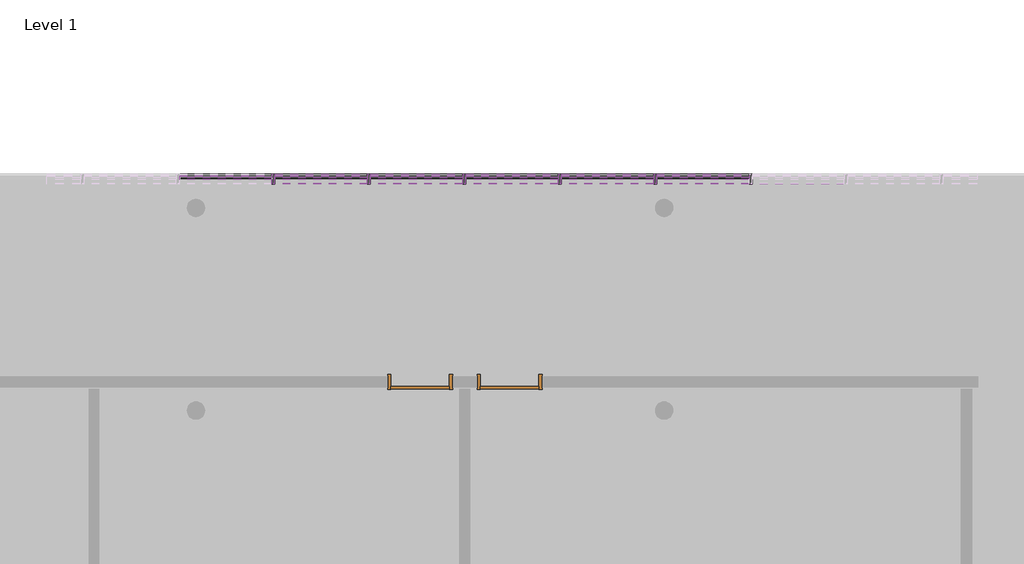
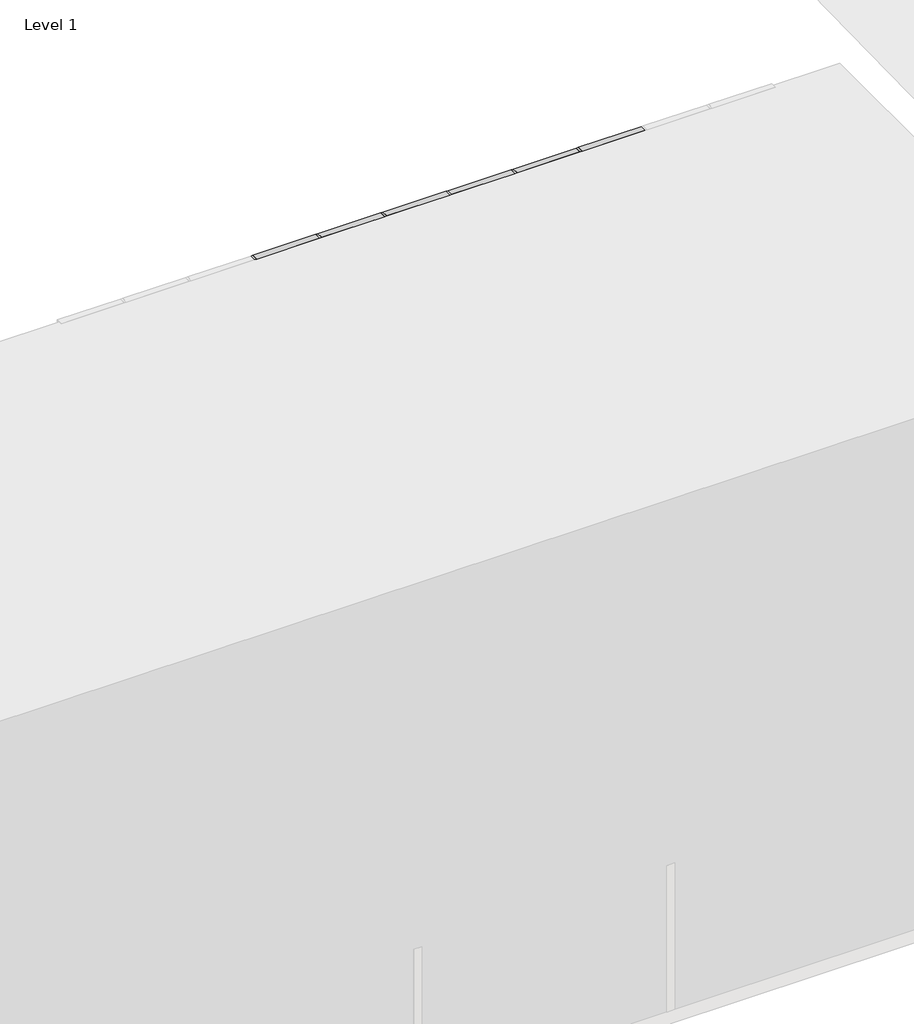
# One storey, part 8 of 18: 88 members, 40 plates, 2 doors.
"""IFC4 building model written with IfcOpenShell, lengths in millimetres."""

from ifc_helpers import new_model, si_unit, origin, place, context, project, spatial, transform, mapped, element, save
from components import door_0915mm_x_2134mm_2aa27b83, door_0915mm_x_2134mm_3fa07aa3, rectangular_mullion_50mm_x_150mm_5f185edf, rectangular_mullion_50mm_x_150mm_e13fe9f0, rectangular_mullion_50mm_x_150mm_bbc1c4ea, rectangular_mullion_50mm_x_150mm_36202a7c, rectangular_mullion_50mm_x_150mm_84717ec5, system_panel_glazed_65478968, system_panel_glazed_4c130a31, system_panel_solid_368a6b70, system_panel_solid_ece33ae8

model = new_model("IFC4")

# Units and contexts
model_context = context("Model", 3, world=origin())
ifc_project = project(units=[si_unit("LENGTHUNIT", "METRE", prefix="MILLI")], contexts=[model_context])

# Site, building, storey
site = spatial("IfcSite", under=ifc_project)
building = spatial("IfcBuilding", under=site)
storey = spatial("IfcBuildingStorey", under=building, Name="Level 1", Elevation=0.0)

# Doors
placement = place(None, origin())
door_0915mm_x_2134mm_shape = door_0915mm_x_2134mm_2aa27b83(model_context)
element("IfcDoor", 1, ObjectType="m-doors-hm-f1-a : 0915mm x 2134mm", at=placement, inside=storey, context=model_context, shape_type="MappedRepresentation", body=[
    mapped(door_0915mm_x_2134mm_shape, transform((45561.1968037, -15479.7006057, 0.0), x_axis=(-1.0, 0.0, 0.0), y_axis=(0.0, -1.0, 0.0), z_axis=(0.0, 0.0, 1.0))),
])
door_0915mm_x_2134mm_2_shape = door_0915mm_x_2134mm_3fa07aa3(model_context)
element("IfcDoor", 2, ObjectType="m-doors-hm-f1-a : 0915mm x 2134mm", at=placement, inside=storey, context=model_context, shape_type="MappedRepresentation", body=[
    mapped(door_0915mm_x_2134mm_2_shape, transform((46961.1968037, -15479.7006057, 0.0), x_axis=(1.0, 0.0, 0.0), y_axis=(0.0, 1.0, 0.0), z_axis=(0.0, 0.0, 1.0))),
])

# Members
rectangular_mullion_50mm_x_150mm_shape = rectangular_mullion_50mm_x_150mm_5f185edf(model_context)
element("IfcMember", 3, ObjectType="Rectangular Mullion : 50mm x 150mm", at=placement, inside=storey, context=model_context, shape_type="MappedRepresentation", body=[
    mapped(rectangular_mullion_50mm_x_150mm_shape, transform((50754.2244573, -12132.3615692, 12400.0), x_axis=(0.0, 0.0, 1.0), y_axis=(0.0, 1.0, 0.0), z_axis=(-1.0, 0.0, 0.0))),
])
element("IfcMember", 4, ObjectType="Rectangular Mullion : 50mm x 150mm", at=placement, inside=storey, context=model_context, shape_type="MappedRepresentation", body=[
    mapped(rectangular_mullion_50mm_x_150mm_shape, transform((49261.7512371, -12132.3615692, 12400.0), x_axis=(0.0, 0.0, 1.0), y_axis=(0.0, 1.0, 0.0), z_axis=(-1.0, 0.0, 0.0))),
])
element("IfcMember", 5, ObjectType="Rectangular Mullion : 50mm x 150mm", at=placement, inside=storey, context=model_context, shape_type="MappedRepresentation", body=[
    mapped(rectangular_mullion_50mm_x_150mm_shape, transform((47769.2780169, -12132.3615692, 12400.0), x_axis=(0.0, 0.0, 1.0), y_axis=(0.0, 1.0, 0.0), z_axis=(-1.0, 0.0, 0.0))),
])
element("IfcMember", 6, ObjectType="Rectangular Mullion : 50mm x 150mm", at=placement, inside=storey, context=model_context, shape_type="MappedRepresentation", body=[
    mapped(rectangular_mullion_50mm_x_150mm_shape, transform((46276.8047968, -12132.3615692, 12400.0), x_axis=(0.0, 0.0, 1.0), y_axis=(0.0, 1.0, 0.0), z_axis=(-1.0, 0.0, 0.0))),
])
element("IfcMember", 7, ObjectType="Rectangular Mullion : 50mm x 150mm", at=placement, inside=storey, context=model_context, shape_type="MappedRepresentation", body=[
    mapped(rectangular_mullion_50mm_x_150mm_shape, transform((44784.3315766, -12132.3615692, 12400.0), x_axis=(0.0, 0.0, 1.0), y_axis=(0.0, 1.0, 0.0), z_axis=(-1.0, 0.0, 0.0))),
])
element("IfcMember", 8, ObjectType="Rectangular Mullion : 50mm x 150mm", at=placement, inside=storey, context=model_context, shape_type="MappedRepresentation", body=[
    mapped(rectangular_mullion_50mm_x_150mm_shape, transform((43291.8583565, -12132.3615692, 12400.0), x_axis=(0.0, 0.0, 1.0), y_axis=(0.0, 1.0, 0.0), z_axis=(-1.0, 0.0, 0.0))),
])
element("IfcMember", 9, ObjectType="Rectangular Mullion : 50mm x 150mm", at=placement, inside=storey, context=model_context, shape_type="MappedRepresentation", body=[
    mapped(rectangular_mullion_50mm_x_150mm_shape, transform((50704.2244573, -12132.3615692, 0.0), x_axis=(0.0, 0.0, -1.0), y_axis=(0.0, 1.0, 0.0), z_axis=(1.0, 0.0, 0.0))),
])
element("IfcMember", 10, ObjectType="Rectangular Mullion : 50mm x 150mm", at=placement, inside=storey, context=model_context, shape_type="MappedRepresentation", body=[
    mapped(rectangular_mullion_50mm_x_150mm_shape, transform((49211.7512371, -12132.3615692, 0.0), x_axis=(0.0, 0.0, -1.0), y_axis=(0.0, 1.0, 0.0), z_axis=(1.0, 0.0, 0.0))),
])
element("IfcMember", 11, ObjectType="Rectangular Mullion : 50mm x 150mm", at=placement, inside=storey, context=model_context, shape_type="MappedRepresentation", body=[
    mapped(rectangular_mullion_50mm_x_150mm_shape, transform((47719.2780169, -12132.3615692, 0.0), x_axis=(0.0, 0.0, -1.0), y_axis=(0.0, 1.0, 0.0), z_axis=(1.0, 0.0, 0.0))),
])
element("IfcMember", 12, ObjectType="Rectangular Mullion : 50mm x 150mm", at=placement, inside=storey, context=model_context, shape_type="MappedRepresentation", body=[
    mapped(rectangular_mullion_50mm_x_150mm_shape, transform((46226.8047968, -12132.3615692, 0.0), x_axis=(0.0, 0.0, -1.0), y_axis=(0.0, 1.0, 0.0), z_axis=(1.0, 0.0, 0.0))),
])
element("IfcMember", 13, ObjectType="Rectangular Mullion : 50mm x 150mm", at=placement, inside=storey, context=model_context, shape_type="MappedRepresentation", body=[
    mapped(rectangular_mullion_50mm_x_150mm_shape, transform((44734.3315766, -12132.3615692, 0.0), x_axis=(0.0, 0.0, -1.0), y_axis=(0.0, 1.0, 0.0), z_axis=(1.0, 0.0, 0.0))),
])
element("IfcMember", 14, ObjectType="Rectangular Mullion : 50mm x 150mm", at=placement, inside=storey, context=model_context, shape_type="MappedRepresentation", body=[
    mapped(rectangular_mullion_50mm_x_150mm_shape, transform((43241.8583565, -12132.3615692, 0.0), x_axis=(0.0, 0.0, -1.0), y_axis=(0.0, 1.0, 0.0), z_axis=(1.0, 0.0, 0.0))),
])
rectangular_mullion_50mm_x_150mm_2_shape = rectangular_mullion_50mm_x_150mm_e13fe9f0(model_context)
element("IfcMember", 15, ObjectType="Rectangular Mullion : 50mm x 150mm", at=placement, inside=storey, context=model_context, shape_type="MappedRepresentation", body=[
    mapped(rectangular_mullion_50mm_x_150mm_2_shape, transform((50754.2244573, -12132.3615692, 3800.0), x_axis=(0.0, 0.0, 1.0), y_axis=(0.0, 1.0, 0.0), z_axis=(-1.0, 0.0, 0.0))),
])
element("IfcMember", 16, ObjectType="Rectangular Mullion : 50mm x 150mm", at=placement, inside=storey, context=model_context, shape_type="MappedRepresentation", body=[
    mapped(rectangular_mullion_50mm_x_150mm_2_shape, transform((49261.7512371, -12132.3615692, 3800.0), x_axis=(0.0, 0.0, 1.0), y_axis=(0.0, 1.0, 0.0), z_axis=(-1.0, 0.0, 0.0))),
])
element("IfcMember", 17, ObjectType="Rectangular Mullion : 50mm x 150mm", at=placement, inside=storey, context=model_context, shape_type="MappedRepresentation", body=[
    mapped(rectangular_mullion_50mm_x_150mm_2_shape, transform((47769.2780169, -12132.3615692, 3800.0), x_axis=(0.0, 0.0, 1.0), y_axis=(0.0, 1.0, 0.0), z_axis=(-1.0, 0.0, 0.0))),
])
element("IfcMember", 18, ObjectType="Rectangular Mullion : 50mm x 150mm", at=placement, inside=storey, context=model_context, shape_type="MappedRepresentation", body=[
    mapped(rectangular_mullion_50mm_x_150mm_2_shape, transform((46276.8047968, -12132.3615692, 3800.0), x_axis=(0.0, 0.0, 1.0), y_axis=(0.0, 1.0, 0.0), z_axis=(-1.0, 0.0, 0.0))),
])
element("IfcMember", 19, ObjectType="Rectangular Mullion : 50mm x 150mm", at=placement, inside=storey, context=model_context, shape_type="MappedRepresentation", body=[
    mapped(rectangular_mullion_50mm_x_150mm_2_shape, transform((44784.3315766, -12132.3615692, 3800.0), x_axis=(0.0, 0.0, 1.0), y_axis=(0.0, 1.0, 0.0), z_axis=(-1.0, 0.0, 0.0))),
])
element("IfcMember", 20, ObjectType="Rectangular Mullion : 50mm x 150mm", at=placement, inside=storey, context=model_context, shape_type="MappedRepresentation", body=[
    mapped(rectangular_mullion_50mm_x_150mm_2_shape, transform((43291.8583565, -12132.3615692, 3800.0), x_axis=(0.0, 0.0, 1.0), y_axis=(0.0, 1.0, 0.0), z_axis=(-1.0, 0.0, 0.0))),
])
element("IfcMember", 21, ObjectType="Rectangular Mullion : 50mm x 150mm", at=placement, inside=storey, context=model_context, shape_type="MappedRepresentation", body=[
    mapped(rectangular_mullion_50mm_x_150mm_2_shape, transform((50754.2244573, -12132.3615692, 7600.0), x_axis=(0.0, 0.0, 1.0), y_axis=(0.0, 1.0, 0.0), z_axis=(-1.0, 0.0, 0.0))),
])
element("IfcMember", 22, ObjectType="Rectangular Mullion : 50mm x 150mm", at=placement, inside=storey, context=model_context, shape_type="MappedRepresentation", body=[
    mapped(rectangular_mullion_50mm_x_150mm_2_shape, transform((49261.7512371, -12132.3615692, 7600.0), x_axis=(0.0, 0.0, 1.0), y_axis=(0.0, 1.0, 0.0), z_axis=(-1.0, 0.0, 0.0))),
])
element("IfcMember", 23, ObjectType="Rectangular Mullion : 50mm x 150mm", at=placement, inside=storey, context=model_context, shape_type="MappedRepresentation", body=[
    mapped(rectangular_mullion_50mm_x_150mm_2_shape, transform((47769.2780169, -12132.3615692, 7600.0), x_axis=(0.0, 0.0, 1.0), y_axis=(0.0, 1.0, 0.0), z_axis=(-1.0, 0.0, 0.0))),
])
element("IfcMember", 24, ObjectType="Rectangular Mullion : 50mm x 150mm", at=placement, inside=storey, context=model_context, shape_type="MappedRepresentation", body=[
    mapped(rectangular_mullion_50mm_x_150mm_2_shape, transform((46276.8047968, -12132.3615692, 7600.0), x_axis=(0.0, 0.0, 1.0), y_axis=(0.0, 1.0, 0.0), z_axis=(-1.0, 0.0, 0.0))),
])
element("IfcMember", 25, ObjectType="Rectangular Mullion : 50mm x 150mm", at=placement, inside=storey, context=model_context, shape_type="MappedRepresentation", body=[
    mapped(rectangular_mullion_50mm_x_150mm_2_shape, transform((44784.3315766, -12132.3615692, 7600.0), x_axis=(0.0, 0.0, 1.0), y_axis=(0.0, 1.0, 0.0), z_axis=(-1.0, 0.0, 0.0))),
])
element("IfcMember", 26, ObjectType="Rectangular Mullion : 50mm x 150mm", at=placement, inside=storey, context=model_context, shape_type="MappedRepresentation", body=[
    mapped(rectangular_mullion_50mm_x_150mm_2_shape, transform((43291.8583565, -12132.3615692, 7600.0), x_axis=(0.0, 0.0, 1.0), y_axis=(0.0, 1.0, 0.0), z_axis=(-1.0, 0.0, 0.0))),
])
element("IfcMember", 27, ObjectType="Rectangular Mullion : 50mm x 150mm", at=placement, inside=storey, context=model_context, shape_type="MappedRepresentation", body=[
    mapped(rectangular_mullion_50mm_x_150mm_2_shape, transform((50754.2244573, -12132.3615692, 11400.0), x_axis=(0.0, 0.0, 1.0), y_axis=(0.0, 1.0, 0.0), z_axis=(-1.0, 0.0, 0.0))),
])
element("IfcMember", 28, ObjectType="Rectangular Mullion : 50mm x 150mm", at=placement, inside=storey, context=model_context, shape_type="MappedRepresentation", body=[
    mapped(rectangular_mullion_50mm_x_150mm_2_shape, transform((49261.7512371, -12132.3615692, 11400.0), x_axis=(0.0, 0.0, 1.0), y_axis=(0.0, 1.0, 0.0), z_axis=(-1.0, 0.0, 0.0))),
])
element("IfcMember", 29, ObjectType="Rectangular Mullion : 50mm x 150mm", at=placement, inside=storey, context=model_context, shape_type="MappedRepresentation", body=[
    mapped(rectangular_mullion_50mm_x_150mm_2_shape, transform((47769.2780169, -12132.3615692, 11400.0), x_axis=(0.0, 0.0, 1.0), y_axis=(0.0, 1.0, 0.0), z_axis=(-1.0, 0.0, 0.0))),
])
element("IfcMember", 30, ObjectType="Rectangular Mullion : 50mm x 150mm", at=placement, inside=storey, context=model_context, shape_type="MappedRepresentation", body=[
    mapped(rectangular_mullion_50mm_x_150mm_2_shape, transform((46276.8047968, -12132.3615692, 11400.0), x_axis=(0.0, 0.0, 1.0), y_axis=(0.0, 1.0, 0.0), z_axis=(-1.0, 0.0, 0.0))),
])
element("IfcMember", 31, ObjectType="Rectangular Mullion : 50mm x 150mm", at=placement, inside=storey, context=model_context, shape_type="MappedRepresentation", body=[
    mapped(rectangular_mullion_50mm_x_150mm_2_shape, transform((44784.3315766, -12132.3615692, 11400.0), x_axis=(0.0, 0.0, 1.0), y_axis=(0.0, 1.0, 0.0), z_axis=(-1.0, 0.0, 0.0))),
])
element("IfcMember", 32, ObjectType="Rectangular Mullion : 50mm x 150mm", at=placement, inside=storey, context=model_context, shape_type="MappedRepresentation", body=[
    mapped(rectangular_mullion_50mm_x_150mm_2_shape, transform((43291.8583565, -12132.3615692, 11400.0), x_axis=(0.0, 0.0, 1.0), y_axis=(0.0, 1.0, 0.0), z_axis=(-1.0, 0.0, 0.0))),
])
element("IfcMember", 33, ObjectType="Rectangular Mullion : 50mm x 150mm", at=placement, inside=storey, context=model_context, shape_type="MappedRepresentation", body=[
    mapped(rectangular_mullion_50mm_x_150mm_2_shape, transform((50754.2244573, -12132.3615692, 2440.0), x_axis=(0.0, 0.0, 1.0), y_axis=(0.0, 1.0, 0.0), z_axis=(-1.0, 0.0, 0.0))),
])
element("IfcMember", 34, ObjectType="Rectangular Mullion : 50mm x 150mm", at=placement, inside=storey, context=model_context, shape_type="MappedRepresentation", body=[
    mapped(rectangular_mullion_50mm_x_150mm_2_shape, transform((49261.7512371, -12132.3615692, 2440.0), x_axis=(0.0, 0.0, 1.0), y_axis=(0.0, 1.0, 0.0), z_axis=(-1.0, 0.0, 0.0))),
])
element("IfcMember", 35, ObjectType="Rectangular Mullion : 50mm x 150mm", at=placement, inside=storey, context=model_context, shape_type="MappedRepresentation", body=[
    mapped(rectangular_mullion_50mm_x_150mm_2_shape, transform((47769.2780169, -12132.3615692, 2440.0), x_axis=(0.0, 0.0, 1.0), y_axis=(0.0, 1.0, 0.0), z_axis=(-1.0, 0.0, 0.0))),
])
element("IfcMember", 36, ObjectType="Rectangular Mullion : 50mm x 150mm", at=placement, inside=storey, context=model_context, shape_type="MappedRepresentation", body=[
    mapped(rectangular_mullion_50mm_x_150mm_2_shape, transform((46276.8047968, -12132.3615692, 2440.0), x_axis=(0.0, 0.0, 1.0), y_axis=(0.0, 1.0, 0.0), z_axis=(-1.0, 0.0, 0.0))),
])
element("IfcMember", 37, ObjectType="Rectangular Mullion : 50mm x 150mm", at=placement, inside=storey, context=model_context, shape_type="MappedRepresentation", body=[
    mapped(rectangular_mullion_50mm_x_150mm_2_shape, transform((44784.3315766, -12132.3615692, 2440.0), x_axis=(0.0, 0.0, 1.0), y_axis=(0.0, 1.0, 0.0), z_axis=(-1.0, 0.0, 0.0))),
])
element("IfcMember", 38, ObjectType="Rectangular Mullion : 50mm x 150mm", at=placement, inside=storey, context=model_context, shape_type="MappedRepresentation", body=[
    mapped(rectangular_mullion_50mm_x_150mm_2_shape, transform((43291.8583565, -12132.3615692, 2440.0), x_axis=(0.0, 0.0, 1.0), y_axis=(0.0, 1.0, 0.0), z_axis=(-1.0, 0.0, 0.0))),
])
element("IfcMember", 39, ObjectType="Rectangular Mullion : 50mm x 150mm", at=placement, inside=storey, context=model_context, shape_type="MappedRepresentation", body=[
    mapped(rectangular_mullion_50mm_x_150mm_2_shape, transform((50754.2244573, -12132.3615692, 6240.0), x_axis=(0.0, 0.0, 1.0), y_axis=(0.0, 1.0, 0.0), z_axis=(-1.0, 0.0, 0.0))),
])
element("IfcMember", 40, ObjectType="Rectangular Mullion : 50mm x 150mm", at=placement, inside=storey, context=model_context, shape_type="MappedRepresentation", body=[
    mapped(rectangular_mullion_50mm_x_150mm_2_shape, transform((49261.7512371, -12132.3615692, 6240.0), x_axis=(0.0, 0.0, 1.0), y_axis=(0.0, 1.0, 0.0), z_axis=(-1.0, 0.0, 0.0))),
])
element("IfcMember", 41, ObjectType="Rectangular Mullion : 50mm x 150mm", at=placement, inside=storey, context=model_context, shape_type="MappedRepresentation", body=[
    mapped(rectangular_mullion_50mm_x_150mm_2_shape, transform((47769.2780169, -12132.3615692, 6240.0), x_axis=(0.0, 0.0, 1.0), y_axis=(0.0, 1.0, 0.0), z_axis=(-1.0, 0.0, 0.0))),
])
element("IfcMember", 42, ObjectType="Rectangular Mullion : 50mm x 150mm", at=placement, inside=storey, context=model_context, shape_type="MappedRepresentation", body=[
    mapped(rectangular_mullion_50mm_x_150mm_2_shape, transform((46276.8047968, -12132.3615692, 6240.0), x_axis=(0.0, 0.0, 1.0), y_axis=(0.0, 1.0, 0.0), z_axis=(-1.0, 0.0, 0.0))),
])
element("IfcMember", 43, ObjectType="Rectangular Mullion : 50mm x 150mm", at=placement, inside=storey, context=model_context, shape_type="MappedRepresentation", body=[
    mapped(rectangular_mullion_50mm_x_150mm_2_shape, transform((44784.3315766, -12132.3615692, 6240.0), x_axis=(0.0, 0.0, 1.0), y_axis=(0.0, 1.0, 0.0), z_axis=(-1.0, 0.0, 0.0))),
])
element("IfcMember", 44, ObjectType="Rectangular Mullion : 50mm x 150mm", at=placement, inside=storey, context=model_context, shape_type="MappedRepresentation", body=[
    mapped(rectangular_mullion_50mm_x_150mm_2_shape, transform((43291.8583565, -12132.3615692, 6240.0), x_axis=(0.0, 0.0, 1.0), y_axis=(0.0, 1.0, 0.0), z_axis=(-1.0, 0.0, 0.0))),
])
element("IfcMember", 45, ObjectType="Rectangular Mullion : 50mm x 150mm", at=placement, inside=storey, context=model_context, shape_type="MappedRepresentation", body=[
    mapped(rectangular_mullion_50mm_x_150mm_2_shape, transform((49261.7512371, -12132.3615692, 10040.0), x_axis=(0.0, 0.0, 1.0), y_axis=(0.0, 1.0, 0.0), z_axis=(-1.0, 0.0, 0.0))),
])
element("IfcMember", 46, ObjectType="Rectangular Mullion : 50mm x 150mm", at=placement, inside=storey, context=model_context, shape_type="MappedRepresentation", body=[
    mapped(rectangular_mullion_50mm_x_150mm_2_shape, transform((47769.2780169, -12132.3615692, 10040.0), x_axis=(0.0, 0.0, 1.0), y_axis=(0.0, 1.0, 0.0), z_axis=(-1.0, 0.0, 0.0))),
])
element("IfcMember", 47, ObjectType="Rectangular Mullion : 50mm x 150mm", at=placement, inside=storey, context=model_context, shape_type="MappedRepresentation", body=[
    mapped(rectangular_mullion_50mm_x_150mm_2_shape, transform((46276.8047968, -12132.3615692, 10040.0), x_axis=(0.0, 0.0, 1.0), y_axis=(0.0, 1.0, 0.0), z_axis=(-1.0, 0.0, 0.0))),
])
element("IfcMember", 48, ObjectType="Rectangular Mullion : 50mm x 150mm", at=placement, inside=storey, context=model_context, shape_type="MappedRepresentation", body=[
    mapped(rectangular_mullion_50mm_x_150mm_2_shape, transform((44784.3315766, -12132.3615692, 10040.0), x_axis=(0.0, 0.0, 1.0), y_axis=(0.0, 1.0, 0.0), z_axis=(-1.0, 0.0, 0.0))),
])
element("IfcMember", 49, ObjectType="Rectangular Mullion : 50mm x 150mm", at=placement, inside=storey, context=model_context, shape_type="MappedRepresentation", body=[
    mapped(rectangular_mullion_50mm_x_150mm_2_shape, transform((43291.8583565, -12132.3615692, 10040.0), x_axis=(0.0, 0.0, 1.0), y_axis=(0.0, 1.0, 0.0), z_axis=(-1.0, 0.0, 0.0))),
])
rectangular_mullion_50mm_x_150mm_3_shape = rectangular_mullion_50mm_x_150mm_bbc1c4ea(model_context)
element("IfcMember", 50, ObjectType="Rectangular Mullion : 50mm x 150mm", at=placement, inside=storey, context=model_context, shape_type="MappedRepresentation", body=[
    mapped(rectangular_mullion_50mm_x_150mm_3_shape, transform((50729.2244573, -12132.3615692, 11400.0), x_axis=(-1.0, 0.0, 0.0), y_axis=(0.0, 1.0, 0.0), z_axis=(0.0, 0.0, -1.0))),
])
element("IfcMember", 51, ObjectType="Rectangular Mullion : 50mm x 150mm", at=placement, inside=storey, context=model_context, shape_type="MappedRepresentation", body=[
    mapped(rectangular_mullion_50mm_x_150mm_3_shape, transform((49236.7512371, -12132.3615692, 11400.0), x_axis=(-1.0, 0.0, 0.0), y_axis=(0.0, 1.0, 0.0), z_axis=(0.0, 0.0, -1.0))),
])
element("IfcMember", 52, ObjectType="Rectangular Mullion : 50mm x 150mm", at=placement, inside=storey, context=model_context, shape_type="MappedRepresentation", body=[
    mapped(rectangular_mullion_50mm_x_150mm_3_shape, transform((47744.2780169, -12132.3615692, 11400.0), x_axis=(-1.0, 0.0, 0.0), y_axis=(0.0, 1.0, 0.0), z_axis=(0.0, 0.0, -1.0))),
])
element("IfcMember", 53, ObjectType="Rectangular Mullion : 50mm x 150mm", at=placement, inside=storey, context=model_context, shape_type="MappedRepresentation", body=[
    mapped(rectangular_mullion_50mm_x_150mm_3_shape, transform((46251.8047968, -12132.3615692, 11400.0), x_axis=(-1.0, 0.0, 0.0), y_axis=(0.0, 1.0, 0.0), z_axis=(0.0, 0.0, -1.0))),
])
element("IfcMember", 54, ObjectType="Rectangular Mullion : 50mm x 150mm", at=placement, inside=storey, context=model_context, shape_type="MappedRepresentation", body=[
    mapped(rectangular_mullion_50mm_x_150mm_3_shape, transform((44759.3315766, -12132.3615692, 11400.0), x_axis=(-1.0, 0.0, 0.0), y_axis=(0.0, 1.0, 0.0), z_axis=(0.0, 0.0, -1.0))),
])
element("IfcMember", 55, ObjectType="Rectangular Mullion : 50mm x 150mm", at=placement, inside=storey, context=model_context, shape_type="MappedRepresentation", body=[
    mapped(rectangular_mullion_50mm_x_150mm_3_shape, transform((43266.8583565, -12132.3615692, 11400.0), x_axis=(-1.0, 0.0, 0.0), y_axis=(0.0, 1.0, 0.0), z_axis=(0.0, 0.0, -1.0))),
])
rectangular_mullion_50mm_x_150mm_4_shape = rectangular_mullion_50mm_x_150mm_36202a7c(model_context)
element("IfcMember", 56, ObjectType="Rectangular Mullion : 50mm x 150mm", at=placement, inside=storey, context=model_context, shape_type="MappedRepresentation", body=[
    mapped(rectangular_mullion_50mm_x_150mm_4_shape, transform((50729.2244573, -12132.3615692, 0.0), x_axis=(-1.0, 0.0, 0.0), y_axis=(0.0, 1.0, 0.0), z_axis=(0.0, 0.0, -1.0))),
])
element("IfcMember", 57, ObjectType="Rectangular Mullion : 50mm x 150mm", at=placement, inside=storey, context=model_context, shape_type="MappedRepresentation", body=[
    mapped(rectangular_mullion_50mm_x_150mm_4_shape, transform((49236.7512371, -12132.3615692, 0.0), x_axis=(-1.0, 0.0, 0.0), y_axis=(0.0, 1.0, 0.0), z_axis=(0.0, 0.0, -1.0))),
])
element("IfcMember", 58, ObjectType="Rectangular Mullion : 50mm x 150mm", at=placement, inside=storey, context=model_context, shape_type="MappedRepresentation", body=[
    mapped(rectangular_mullion_50mm_x_150mm_4_shape, transform((47744.2780169, -12132.3615692, 0.0), x_axis=(-1.0, 0.0, 0.0), y_axis=(0.0, 1.0, 0.0), z_axis=(0.0, 0.0, -1.0))),
])
element("IfcMember", 59, ObjectType="Rectangular Mullion : 50mm x 150mm", at=placement, inside=storey, context=model_context, shape_type="MappedRepresentation", body=[
    mapped(rectangular_mullion_50mm_x_150mm_4_shape, transform((46251.8047968, -12132.3615692, 0.0), x_axis=(-1.0, 0.0, 0.0), y_axis=(0.0, 1.0, 0.0), z_axis=(0.0, 0.0, -1.0))),
])
element("IfcMember", 60, ObjectType="Rectangular Mullion : 50mm x 150mm", at=placement, inside=storey, context=model_context, shape_type="MappedRepresentation", body=[
    mapped(rectangular_mullion_50mm_x_150mm_4_shape, transform((44759.3315766, -12132.3615692, 0.0), x_axis=(-1.0, 0.0, 0.0), y_axis=(0.0, 1.0, 0.0), z_axis=(0.0, 0.0, -1.0))),
])
element("IfcMember", 61, ObjectType="Rectangular Mullion : 50mm x 150mm", at=placement, inside=storey, context=model_context, shape_type="MappedRepresentation", body=[
    mapped(rectangular_mullion_50mm_x_150mm_4_shape, transform((43266.8583565, -12132.3615692, 0.0), x_axis=(-1.0, 0.0, 0.0), y_axis=(0.0, 1.0, 0.0), z_axis=(0.0, 0.0, -1.0))),
])
rectangular_mullion_50mm_x_150mm_5_shape = rectangular_mullion_50mm_x_150mm_84717ec5(model_context)
element("IfcMember", 62, ObjectType="Rectangular Mullion : 50mm x 150mm", at=placement, inside=storey, context=model_context, shape_type="MappedRepresentation", body=[
    mapped(rectangular_mullion_50mm_x_150mm_5_shape, transform((50729.2244573, -12132.3615692, 2440.0), x_axis=(-1.0, 0.0, 0.0), y_axis=(0.0, 1.0, 0.0), z_axis=(0.0, 0.0, -1.0))),
])
element("IfcMember", 63, ObjectType="Rectangular Mullion : 50mm x 150mm", at=placement, inside=storey, context=model_context, shape_type="MappedRepresentation", body=[
    mapped(rectangular_mullion_50mm_x_150mm_5_shape, transform((49236.7512371, -12132.3615692, 2440.0), x_axis=(-1.0, 0.0, 0.0), y_axis=(0.0, 1.0, 0.0), z_axis=(0.0, 0.0, -1.0))),
])
element("IfcMember", 64, ObjectType="Rectangular Mullion : 50mm x 150mm", at=placement, inside=storey, context=model_context, shape_type="MappedRepresentation", body=[
    mapped(rectangular_mullion_50mm_x_150mm_5_shape, transform((47744.2780169, -12132.3615692, 2440.0), x_axis=(-1.0, 0.0, 0.0), y_axis=(0.0, 1.0, 0.0), z_axis=(0.0, 0.0, -1.0))),
])
element("IfcMember", 65, ObjectType="Rectangular Mullion : 50mm x 150mm", at=placement, inside=storey, context=model_context, shape_type="MappedRepresentation", body=[
    mapped(rectangular_mullion_50mm_x_150mm_5_shape, transform((46251.8047968, -12132.3615692, 2440.0), x_axis=(-1.0, 0.0, 0.0), y_axis=(0.0, 1.0, 0.0), z_axis=(0.0, 0.0, -1.0))),
])
element("IfcMember", 66, ObjectType="Rectangular Mullion : 50mm x 150mm", at=placement, inside=storey, context=model_context, shape_type="MappedRepresentation", body=[
    mapped(rectangular_mullion_50mm_x_150mm_5_shape, transform((44759.3315766, -12132.3615692, 2440.0), x_axis=(-1.0, 0.0, 0.0), y_axis=(0.0, 1.0, 0.0), z_axis=(0.0, 0.0, -1.0))),
])
element("IfcMember", 67, ObjectType="Rectangular Mullion : 50mm x 150mm", at=placement, inside=storey, context=model_context, shape_type="MappedRepresentation", body=[
    mapped(rectangular_mullion_50mm_x_150mm_5_shape, transform((43266.8583565, -12132.3615692, 2440.0), x_axis=(-1.0, 0.0, 0.0), y_axis=(0.0, 1.0, 0.0), z_axis=(0.0, 0.0, -1.0))),
])
element("IfcMember", 68, ObjectType="Rectangular Mullion : 50mm x 150mm", at=placement, inside=storey, context=model_context, shape_type="MappedRepresentation", body=[
    mapped(rectangular_mullion_50mm_x_150mm_5_shape, transform((50729.2244573, -12132.3615692, 6240.0), x_axis=(-1.0, 0.0, 0.0), y_axis=(0.0, 1.0, 0.0), z_axis=(0.0, 0.0, -1.0))),
])
element("IfcMember", 69, ObjectType="Rectangular Mullion : 50mm x 150mm", at=placement, inside=storey, context=model_context, shape_type="MappedRepresentation", body=[
    mapped(rectangular_mullion_50mm_x_150mm_5_shape, transform((49236.7512371, -12132.3615692, 6240.0), x_axis=(-1.0, 0.0, 0.0), y_axis=(0.0, 1.0, 0.0), z_axis=(0.0, 0.0, -1.0))),
])
element("IfcMember", 70, ObjectType="Rectangular Mullion : 50mm x 150mm", at=placement, inside=storey, context=model_context, shape_type="MappedRepresentation", body=[
    mapped(rectangular_mullion_50mm_x_150mm_5_shape, transform((47744.2780169, -12132.3615692, 6240.0), x_axis=(-1.0, 0.0, 0.0), y_axis=(0.0, 1.0, 0.0), z_axis=(0.0, 0.0, -1.0))),
])
element("IfcMember", 71, ObjectType="Rectangular Mullion : 50mm x 150mm", at=placement, inside=storey, context=model_context, shape_type="MappedRepresentation", body=[
    mapped(rectangular_mullion_50mm_x_150mm_5_shape, transform((46251.8047968, -12132.3615692, 6240.0), x_axis=(-1.0, 0.0, 0.0), y_axis=(0.0, 1.0, 0.0), z_axis=(0.0, 0.0, -1.0))),
])
element("IfcMember", 72, ObjectType="Rectangular Mullion : 50mm x 150mm", at=placement, inside=storey, context=model_context, shape_type="MappedRepresentation", body=[
    mapped(rectangular_mullion_50mm_x_150mm_5_shape, transform((44759.3315766, -12132.3615692, 6240.0), x_axis=(-1.0, 0.0, 0.0), y_axis=(0.0, 1.0, 0.0), z_axis=(0.0, 0.0, -1.0))),
])
element("IfcMember", 73, ObjectType="Rectangular Mullion : 50mm x 150mm", at=placement, inside=storey, context=model_context, shape_type="MappedRepresentation", body=[
    mapped(rectangular_mullion_50mm_x_150mm_5_shape, transform((43266.8583565, -12132.3615692, 6240.0), x_axis=(-1.0, 0.0, 0.0), y_axis=(0.0, 1.0, 0.0), z_axis=(0.0, 0.0, -1.0))),
])
element("IfcMember", 74, ObjectType="Rectangular Mullion : 50mm x 150mm", at=placement, inside=storey, context=model_context, shape_type="MappedRepresentation", body=[
    mapped(rectangular_mullion_50mm_x_150mm_5_shape, transform((49236.7512371, -12132.3615692, 10040.0), x_axis=(-1.0, 0.0, 0.0), y_axis=(0.0, 1.0, 0.0), z_axis=(0.0, 0.0, -1.0))),
])
element("IfcMember", 75, ObjectType="Rectangular Mullion : 50mm x 150mm", at=placement, inside=storey, context=model_context, shape_type="MappedRepresentation", body=[
    mapped(rectangular_mullion_50mm_x_150mm_5_shape, transform((47744.2780169, -12132.3615692, 10040.0), x_axis=(-1.0, 0.0, 0.0), y_axis=(0.0, 1.0, 0.0), z_axis=(0.0, 0.0, -1.0))),
])
element("IfcMember", 76, ObjectType="Rectangular Mullion : 50mm x 150mm", at=placement, inside=storey, context=model_context, shape_type="MappedRepresentation", body=[
    mapped(rectangular_mullion_50mm_x_150mm_5_shape, transform((46251.8047968, -12132.3615692, 10040.0), x_axis=(-1.0, 0.0, 0.0), y_axis=(0.0, 1.0, 0.0), z_axis=(0.0, 0.0, -1.0))),
])
element("IfcMember", 77, ObjectType="Rectangular Mullion : 50mm x 150mm", at=placement, inside=storey, context=model_context, shape_type="MappedRepresentation", body=[
    mapped(rectangular_mullion_50mm_x_150mm_5_shape, transform((44759.3315766, -12132.3615692, 10040.0), x_axis=(-1.0, 0.0, 0.0), y_axis=(0.0, 1.0, 0.0), z_axis=(0.0, 0.0, -1.0))),
])
element("IfcMember", 78, ObjectType="Rectangular Mullion : 50mm x 150mm", at=placement, inside=storey, context=model_context, shape_type="MappedRepresentation", body=[
    mapped(rectangular_mullion_50mm_x_150mm_5_shape, transform((43266.8583565, -12132.3615692, 10040.0), x_axis=(-1.0, 0.0, 0.0), y_axis=(0.0, 1.0, 0.0), z_axis=(0.0, 0.0, -1.0))),
])
element("IfcMember", 79, ObjectType="Rectangular Mullion : 50mm x 150mm", at=placement, inside=storey, context=model_context, shape_type="MappedRepresentation", body=[
    mapped(rectangular_mullion_50mm_x_150mm_4_shape, transform((50729.2244573, -12132.3615692, 3800.0), x_axis=(-1.0, 0.0, 0.0), y_axis=(0.0, 1.0, 0.0), z_axis=(0.0, 0.0, -1.0))),
])
element("IfcMember", 80, ObjectType="Rectangular Mullion : 50mm x 150mm", at=placement, inside=storey, context=model_context, shape_type="MappedRepresentation", body=[
    mapped(rectangular_mullion_50mm_x_150mm_4_shape, transform((49236.7512371, -12132.3615692, 3800.0), x_axis=(-1.0, 0.0, 0.0), y_axis=(0.0, 1.0, 0.0), z_axis=(0.0, 0.0, -1.0))),
])
element("IfcMember", 81, ObjectType="Rectangular Mullion : 50mm x 150mm", at=placement, inside=storey, context=model_context, shape_type="MappedRepresentation", body=[
    mapped(rectangular_mullion_50mm_x_150mm_4_shape, transform((47744.2780169, -12132.3615692, 3800.0), x_axis=(-1.0, 0.0, 0.0), y_axis=(0.0, 1.0, 0.0), z_axis=(0.0, 0.0, -1.0))),
])
element("IfcMember", 82, ObjectType="Rectangular Mullion : 50mm x 150mm", at=placement, inside=storey, context=model_context, shape_type="MappedRepresentation", body=[
    mapped(rectangular_mullion_50mm_x_150mm_4_shape, transform((46251.8047968, -12132.3615692, 3800.0), x_axis=(-1.0, 0.0, 0.0), y_axis=(0.0, 1.0, 0.0), z_axis=(0.0, 0.0, -1.0))),
])
element("IfcMember", 83, ObjectType="Rectangular Mullion : 50mm x 150mm", at=placement, inside=storey, context=model_context, shape_type="MappedRepresentation", body=[
    mapped(rectangular_mullion_50mm_x_150mm_4_shape, transform((44759.3315766, -12132.3615692, 3800.0), x_axis=(-1.0, 0.0, 0.0), y_axis=(0.0, 1.0, 0.0), z_axis=(0.0, 0.0, -1.0))),
])
element("IfcMember", 84, ObjectType="Rectangular Mullion : 50mm x 150mm", at=placement, inside=storey, context=model_context, shape_type="MappedRepresentation", body=[
    mapped(rectangular_mullion_50mm_x_150mm_4_shape, transform((43266.8583565, -12132.3615692, 3800.0), x_axis=(-1.0, 0.0, 0.0), y_axis=(0.0, 1.0, 0.0), z_axis=(0.0, 0.0, -1.0))),
])
element("IfcMember", 85, ObjectType="Rectangular Mullion : 50mm x 150mm", at=placement, inside=storey, context=model_context, shape_type="MappedRepresentation", body=[
    mapped(rectangular_mullion_50mm_x_150mm_4_shape, transform((50729.2244573, -12132.3615692, 7600.0), x_axis=(-1.0, 0.0, 0.0), y_axis=(0.0, 1.0, 0.0), z_axis=(0.0, 0.0, -1.0))),
])
element("IfcMember", 86, ObjectType="Rectangular Mullion : 50mm x 150mm", at=placement, inside=storey, context=model_context, shape_type="MappedRepresentation", body=[
    mapped(rectangular_mullion_50mm_x_150mm_4_shape, transform((49236.7512371, -12132.3615692, 7600.0), x_axis=(-1.0, 0.0, 0.0), y_axis=(0.0, 1.0, 0.0), z_axis=(0.0, 0.0, -1.0))),
])
element("IfcMember", 87, ObjectType="Rectangular Mullion : 50mm x 150mm", at=placement, inside=storey, context=model_context, shape_type="MappedRepresentation", body=[
    mapped(rectangular_mullion_50mm_x_150mm_4_shape, transform((47744.2780169, -12132.3615692, 7600.0), x_axis=(-1.0, 0.0, 0.0), y_axis=(0.0, 1.0, 0.0), z_axis=(0.0, 0.0, -1.0))),
])
element("IfcMember", 88, ObjectType="Rectangular Mullion : 50mm x 150mm", at=placement, inside=storey, context=model_context, shape_type="MappedRepresentation", body=[
    mapped(rectangular_mullion_50mm_x_150mm_4_shape, transform((46251.8047968, -12132.3615692, 7600.0), x_axis=(-1.0, 0.0, 0.0), y_axis=(0.0, 1.0, 0.0), z_axis=(0.0, 0.0, -1.0))),
])
element("IfcMember", 89, ObjectType="Rectangular Mullion : 50mm x 150mm", at=placement, inside=storey, context=model_context, shape_type="MappedRepresentation", body=[
    mapped(rectangular_mullion_50mm_x_150mm_4_shape, transform((44759.3315766, -12132.3615692, 7600.0), x_axis=(-1.0, 0.0, 0.0), y_axis=(0.0, 1.0, 0.0), z_axis=(0.0, 0.0, -1.0))),
])
element("IfcMember", 90, ObjectType="Rectangular Mullion : 50mm x 150mm", at=placement, inside=storey, context=model_context, shape_type="MappedRepresentation", body=[
    mapped(rectangular_mullion_50mm_x_150mm_4_shape, transform((43266.8583565, -12132.3615692, 7600.0), x_axis=(-1.0, 0.0, 0.0), y_axis=(0.0, 1.0, 0.0), z_axis=(0.0, 0.0, -1.0))),
])

# Plates
system_panel_glazed_shape = system_panel_glazed_65478968(model_context)
element("IfcPlate", 91, ObjectType="System Panel : Glazed", at=placement, inside=storey, context=model_context, shape_type="MappedRepresentation", body=[
    mapped(system_panel_glazed_shape, transform((49982.9878472, -12132.3615692, 50.0), x_axis=(-1.0, 0.0, 0.0), y_axis=(0.0, -1.0, 0.0), z_axis=(0.0, 0.0, 1.0))),
])
element("IfcPlate", 92, ObjectType="System Panel : Glazed", at=placement, inside=storey, context=model_context, shape_type="MappedRepresentation", body=[
    mapped(system_panel_glazed_shape, transform((48490.514627, -12132.3615692, 50.0), x_axis=(-1.0, 0.0, 0.0), y_axis=(0.0, -1.0, 0.0), z_axis=(0.0, 0.0, 1.0))),
])
element("IfcPlate", 93, ObjectType="System Panel : Glazed", at=placement, inside=storey, context=model_context, shape_type="MappedRepresentation", body=[
    mapped(system_panel_glazed_shape, transform((46998.0414069, -12132.3615692, 50.0), x_axis=(-1.0, 0.0, 0.0), y_axis=(0.0, -1.0, 0.0), z_axis=(0.0, 0.0, 1.0))),
])
element("IfcPlate", 94, ObjectType="System Panel : Glazed", at=placement, inside=storey, context=model_context, shape_type="MappedRepresentation", body=[
    mapped(system_panel_glazed_shape, transform((45505.5681867, -12132.3615692, 50.0), x_axis=(-1.0, 0.0, 0.0), y_axis=(0.0, -1.0, 0.0), z_axis=(0.0, 0.0, 1.0))),
])
element("IfcPlate", 95, ObjectType="System Panel : Glazed", at=placement, inside=storey, context=model_context, shape_type="MappedRepresentation", body=[
    mapped(system_panel_glazed_shape, transform((44013.0949665, -12132.3615692, 50.0), x_axis=(-1.0, 0.0, 0.0), y_axis=(0.0, -1.0, 0.0), z_axis=(0.0, 0.0, 1.0))),
])
system_panel_glazed_2_shape = system_panel_glazed_4c130a31(model_context)
element("IfcPlate", 96, ObjectType="System Panel : Glazed", at=placement, inside=storey, context=model_context, shape_type="MappedRepresentation", body=[
    mapped(system_panel_glazed_2_shape, transform((49982.9878472, -12132.3615692, 3825.0), x_axis=(-1.0, 0.0, 0.0), y_axis=(0.0, -1.0, 0.0), z_axis=(0.0, 0.0, 1.0))),
])
element("IfcPlate", 97, ObjectType="System Panel : Glazed", at=placement, inside=storey, context=model_context, shape_type="MappedRepresentation", body=[
    mapped(system_panel_glazed_2_shape, transform((48490.514627, -12132.3615692, 3825.0), x_axis=(-1.0, 0.0, 0.0), y_axis=(0.0, -1.0, 0.0), z_axis=(0.0, 0.0, 1.0))),
])
element("IfcPlate", 98, ObjectType="System Panel : Glazed", at=placement, inside=storey, context=model_context, shape_type="MappedRepresentation", body=[
    mapped(system_panel_glazed_2_shape, transform((46998.0414069, -12132.3615692, 3825.0), x_axis=(-1.0, 0.0, 0.0), y_axis=(0.0, -1.0, 0.0), z_axis=(0.0, 0.0, 1.0))),
])
element("IfcPlate", 99, ObjectType="System Panel : Glazed", at=placement, inside=storey, context=model_context, shape_type="MappedRepresentation", body=[
    mapped(system_panel_glazed_2_shape, transform((45505.5681867, -12132.3615692, 3825.0), x_axis=(-1.0, 0.0, 0.0), y_axis=(0.0, -1.0, 0.0), z_axis=(0.0, 0.0, 1.0))),
])
element("IfcPlate", 100, ObjectType="System Panel : Glazed", at=placement, inside=storey, context=model_context, shape_type="MappedRepresentation", body=[
    mapped(system_panel_glazed_2_shape, transform((44013.0949665, -12132.3615692, 3825.0), x_axis=(-1.0, 0.0, 0.0), y_axis=(0.0, -1.0, 0.0), z_axis=(0.0, 0.0, 1.0))),
])
element("IfcPlate", 101, ObjectType="System Panel : Glazed", at=placement, inside=storey, context=model_context, shape_type="MappedRepresentation", body=[
    mapped(system_panel_glazed_2_shape, transform((49982.9878472, -12132.3615692, 7625.0), x_axis=(-1.0, 0.0, 0.0), y_axis=(0.0, -1.0, 0.0), z_axis=(0.0, 0.0, 1.0))),
])
element("IfcPlate", 102, ObjectType="System Panel : Glazed", at=placement, inside=storey, context=model_context, shape_type="MappedRepresentation", body=[
    mapped(system_panel_glazed_2_shape, transform((48490.514627, -12132.3615692, 7625.0), x_axis=(-1.0, 0.0, 0.0), y_axis=(0.0, -1.0, 0.0), z_axis=(0.0, 0.0, 1.0))),
])
element("IfcPlate", 103, ObjectType="System Panel : Glazed", at=placement, inside=storey, context=model_context, shape_type="MappedRepresentation", body=[
    mapped(system_panel_glazed_2_shape, transform((46998.0414069, -12132.3615692, 7625.0), x_axis=(-1.0, 0.0, 0.0), y_axis=(0.0, -1.0, 0.0), z_axis=(0.0, 0.0, 1.0))),
])
element("IfcPlate", 104, ObjectType="System Panel : Glazed", at=placement, inside=storey, context=model_context, shape_type="MappedRepresentation", body=[
    mapped(system_panel_glazed_2_shape, transform((45505.5681867, -12132.3615692, 7625.0), x_axis=(-1.0, 0.0, 0.0), y_axis=(0.0, -1.0, 0.0), z_axis=(0.0, 0.0, 1.0))),
])
element("IfcPlate", 105, ObjectType="System Panel : Glazed", at=placement, inside=storey, context=model_context, shape_type="MappedRepresentation", body=[
    mapped(system_panel_glazed_2_shape, transform((44013.0949665, -12132.3615692, 7625.0), x_axis=(-1.0, 0.0, 0.0), y_axis=(0.0, -1.0, 0.0), z_axis=(0.0, 0.0, 1.0))),
])
element("IfcPlate", 106, ObjectType="System Panel : Glazed", at=placement, inside=storey, context=model_context, shape_type="MappedRepresentation", body=[
    mapped(system_panel_glazed_2_shape, transform((42520.6217464, -12132.3615692, 7625.0), x_axis=(-1.0, 0.0, 0.0), y_axis=(0.0, -1.0, 0.0), z_axis=(0.0, 0.0, 1.0))),
])
system_panel_solid_shape = system_panel_solid_368a6b70(model_context)
element("IfcPlate", 107, ObjectType="System Panel : Solid", at=placement, inside=storey, context=model_context, shape_type="MappedRepresentation", body=[
    mapped(system_panel_solid_shape, transform((49982.9878472, -12132.3615692, 11425.0), x_axis=(-1.0, 0.0, 0.0), y_axis=(0.0, -1.0, 0.0), z_axis=(0.0, 0.0, 1.0))),
])
element("IfcPlate", 108, ObjectType="System Panel : Solid", at=placement, inside=storey, context=model_context, shape_type="MappedRepresentation", body=[
    mapped(system_panel_solid_shape, transform((48490.514627, -12132.3615692, 11425.0), x_axis=(-1.0, 0.0, 0.0), y_axis=(0.0, -1.0, 0.0), z_axis=(0.0, 0.0, 1.0))),
])
element("IfcPlate", 109, ObjectType="System Panel : Solid", at=placement, inside=storey, context=model_context, shape_type="MappedRepresentation", body=[
    mapped(system_panel_solid_shape, transform((46998.0414069, -12132.3615692, 11425.0), x_axis=(-1.0, 0.0, 0.0), y_axis=(0.0, -1.0, 0.0), z_axis=(0.0, 0.0, 1.0))),
])
element("IfcPlate", 110, ObjectType="System Panel : Solid", at=placement, inside=storey, context=model_context, shape_type="MappedRepresentation", body=[
    mapped(system_panel_solid_shape, transform((45505.5681867, -12132.3615692, 11425.0), x_axis=(-1.0, 0.0, 0.0), y_axis=(0.0, -1.0, 0.0), z_axis=(0.0, 0.0, 1.0))),
])
element("IfcPlate", 111, ObjectType="System Panel : Solid", at=placement, inside=storey, context=model_context, shape_type="MappedRepresentation", body=[
    mapped(system_panel_solid_shape, transform((44013.0949665, -12132.3615692, 11425.0), x_axis=(-1.0, 0.0, 0.0), y_axis=(0.0, -1.0, 0.0), z_axis=(0.0, 0.0, 1.0))),
])
element("IfcPlate", 112, ObjectType="System Panel : Solid", at=placement, inside=storey, context=model_context, shape_type="MappedRepresentation", body=[
    mapped(system_panel_solid_shape, transform((42520.6217464, -12132.3615692, 11425.0), x_axis=(-1.0, 0.0, 0.0), y_axis=(0.0, -1.0, 0.0), z_axis=(0.0, 0.0, 1.0))),
])
system_panel_solid_2_shape = system_panel_solid_ece33ae8(model_context)
element("IfcPlate", 113, ObjectType="System Panel : Solid", at=placement, inside=storey, context=model_context, shape_type="MappedRepresentation", body=[
    mapped(system_panel_solid_2_shape, transform((49982.9878472, -12132.3615692, 2465.0), x_axis=(-1.0, 0.0, 0.0), y_axis=(0.0, -1.0, 0.0), z_axis=(0.0, 0.0, 1.0))),
])
element("IfcPlate", 114, ObjectType="System Panel : Solid", at=placement, inside=storey, context=model_context, shape_type="MappedRepresentation", body=[
    mapped(system_panel_solid_2_shape, transform((48490.514627, -12132.3615692, 2465.0), x_axis=(-1.0, 0.0, 0.0), y_axis=(0.0, -1.0, 0.0), z_axis=(0.0, 0.0, 1.0))),
])
element("IfcPlate", 115, ObjectType="System Panel : Solid", at=placement, inside=storey, context=model_context, shape_type="MappedRepresentation", body=[
    mapped(system_panel_solid_2_shape, transform((46998.0414069, -12132.3615692, 2465.0), x_axis=(-1.0, 0.0, 0.0), y_axis=(0.0, -1.0, 0.0), z_axis=(0.0, 0.0, 1.0))),
])
element("IfcPlate", 116, ObjectType="System Panel : Solid", at=placement, inside=storey, context=model_context, shape_type="MappedRepresentation", body=[
    mapped(system_panel_solid_2_shape, transform((45505.5681867, -12132.3615692, 2465.0), x_axis=(-1.0, 0.0, 0.0), y_axis=(0.0, -1.0, 0.0), z_axis=(0.0, 0.0, 1.0))),
])
element("IfcPlate", 117, ObjectType="System Panel : Solid", at=placement, inside=storey, context=model_context, shape_type="MappedRepresentation", body=[
    mapped(system_panel_solid_2_shape, transform((44013.0949665, -12132.3615692, 2465.0), x_axis=(-1.0, 0.0, 0.0), y_axis=(0.0, -1.0, 0.0), z_axis=(0.0, 0.0, 1.0))),
])
element("IfcPlate", 118, ObjectType="System Panel : Solid", at=placement, inside=storey, context=model_context, shape_type="MappedRepresentation", body=[
    mapped(system_panel_solid_2_shape, transform((42520.6217464, -12132.3615692, 2465.0), x_axis=(-1.0, 0.0, 0.0), y_axis=(0.0, -1.0, 0.0), z_axis=(0.0, 0.0, 1.0))),
])
element("IfcPlate", 119, ObjectType="System Panel : Solid", at=placement, inside=storey, context=model_context, shape_type="MappedRepresentation", body=[
    mapped(system_panel_solid_2_shape, transform((49982.9878472, -12132.3615692, 6265.0), x_axis=(-1.0, 0.0, 0.0), y_axis=(0.0, -1.0, 0.0), z_axis=(0.0, 0.0, 1.0))),
])
element("IfcPlate", 120, ObjectType="System Panel : Solid", at=placement, inside=storey, context=model_context, shape_type="MappedRepresentation", body=[
    mapped(system_panel_solid_2_shape, transform((48490.514627, -12132.3615692, 6265.0), x_axis=(-1.0, 0.0, 0.0), y_axis=(0.0, -1.0, 0.0), z_axis=(0.0, 0.0, 1.0))),
])
element("IfcPlate", 121, ObjectType="System Panel : Solid", at=placement, inside=storey, context=model_context, shape_type="MappedRepresentation", body=[
    mapped(system_panel_solid_2_shape, transform((46998.0414069, -12132.3615692, 6265.0), x_axis=(-1.0, 0.0, 0.0), y_axis=(0.0, -1.0, 0.0), z_axis=(0.0, 0.0, 1.0))),
])
element("IfcPlate", 122, ObjectType="System Panel : Solid", at=placement, inside=storey, context=model_context, shape_type="MappedRepresentation", body=[
    mapped(system_panel_solid_2_shape, transform((45505.5681867, -12132.3615692, 6265.0), x_axis=(-1.0, 0.0, 0.0), y_axis=(0.0, -1.0, 0.0), z_axis=(0.0, 0.0, 1.0))),
])
element("IfcPlate", 123, ObjectType="System Panel : Solid", at=placement, inside=storey, context=model_context, shape_type="MappedRepresentation", body=[
    mapped(system_panel_solid_2_shape, transform((44013.0949665, -12132.3615692, 6265.0), x_axis=(-1.0, 0.0, 0.0), y_axis=(0.0, -1.0, 0.0), z_axis=(0.0, 0.0, 1.0))),
])
element("IfcPlate", 124, ObjectType="System Panel : Solid", at=placement, inside=storey, context=model_context, shape_type="MappedRepresentation", body=[
    mapped(system_panel_solid_2_shape, transform((42520.6217464, -12132.3615692, 6265.0), x_axis=(-1.0, 0.0, 0.0), y_axis=(0.0, -1.0, 0.0), z_axis=(0.0, 0.0, 1.0))),
])
element("IfcPlate", 125, ObjectType="System Panel : Solid", at=placement, inside=storey, context=model_context, shape_type="MappedRepresentation", body=[
    mapped(system_panel_solid_2_shape, transform((49982.9878472, -12132.3615692, 10065.0), x_axis=(-1.0, 0.0, 0.0), y_axis=(0.0, -1.0, 0.0), z_axis=(0.0, 0.0, 1.0))),
])
element("IfcPlate", 126, ObjectType="System Panel : Solid", at=placement, inside=storey, context=model_context, shape_type="MappedRepresentation", body=[
    mapped(system_panel_solid_2_shape, transform((48490.514627, -12132.3615692, 10065.0), x_axis=(-1.0, 0.0, 0.0), y_axis=(0.0, -1.0, 0.0), z_axis=(0.0, 0.0, 1.0))),
])
element("IfcPlate", 127, ObjectType="System Panel : Solid", at=placement, inside=storey, context=model_context, shape_type="MappedRepresentation", body=[
    mapped(system_panel_solid_2_shape, transform((46998.0414069, -12132.3615692, 10065.0), x_axis=(-1.0, 0.0, 0.0), y_axis=(0.0, -1.0, 0.0), z_axis=(0.0, 0.0, 1.0))),
])
element("IfcPlate", 128, ObjectType="System Panel : Solid", at=placement, inside=storey, context=model_context, shape_type="MappedRepresentation", body=[
    mapped(system_panel_solid_2_shape, transform((45505.5681867, -12132.3615692, 10065.0), x_axis=(-1.0, 0.0, 0.0), y_axis=(0.0, -1.0, 0.0), z_axis=(0.0, 0.0, 1.0))),
])
element("IfcPlate", 129, ObjectType="System Panel : Solid", at=placement, inside=storey, context=model_context, shape_type="MappedRepresentation", body=[
    mapped(system_panel_solid_2_shape, transform((44013.0949665, -12132.3615692, 10065.0), x_axis=(-1.0, 0.0, 0.0), y_axis=(0.0, -1.0, 0.0), z_axis=(0.0, 0.0, 1.0))),
])
element("IfcPlate", 130, ObjectType="System Panel : Solid", at=placement, inside=storey, context=model_context, shape_type="MappedRepresentation", body=[
    mapped(system_panel_solid_2_shape, transform((42520.6217464, -12132.3615692, 10065.0), x_axis=(-1.0, 0.0, 0.0), y_axis=(0.0, -1.0, 0.0), z_axis=(0.0, 0.0, 1.0))),
])

save(model, "model.ifc")
